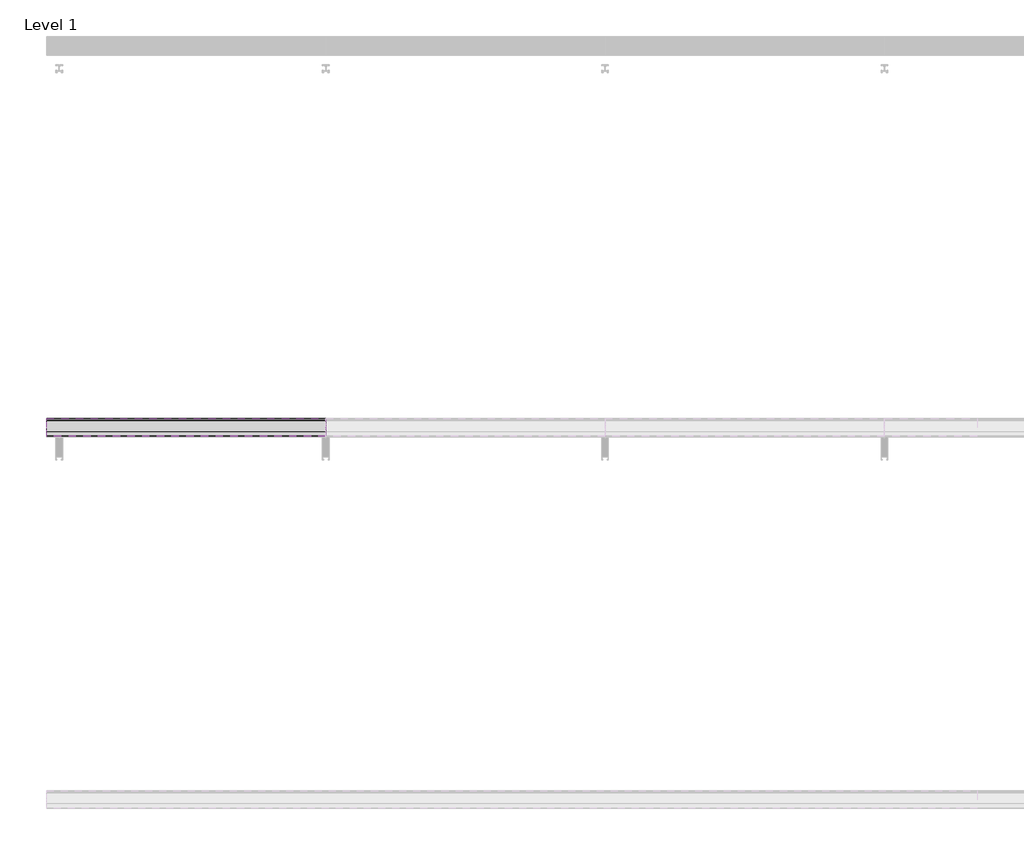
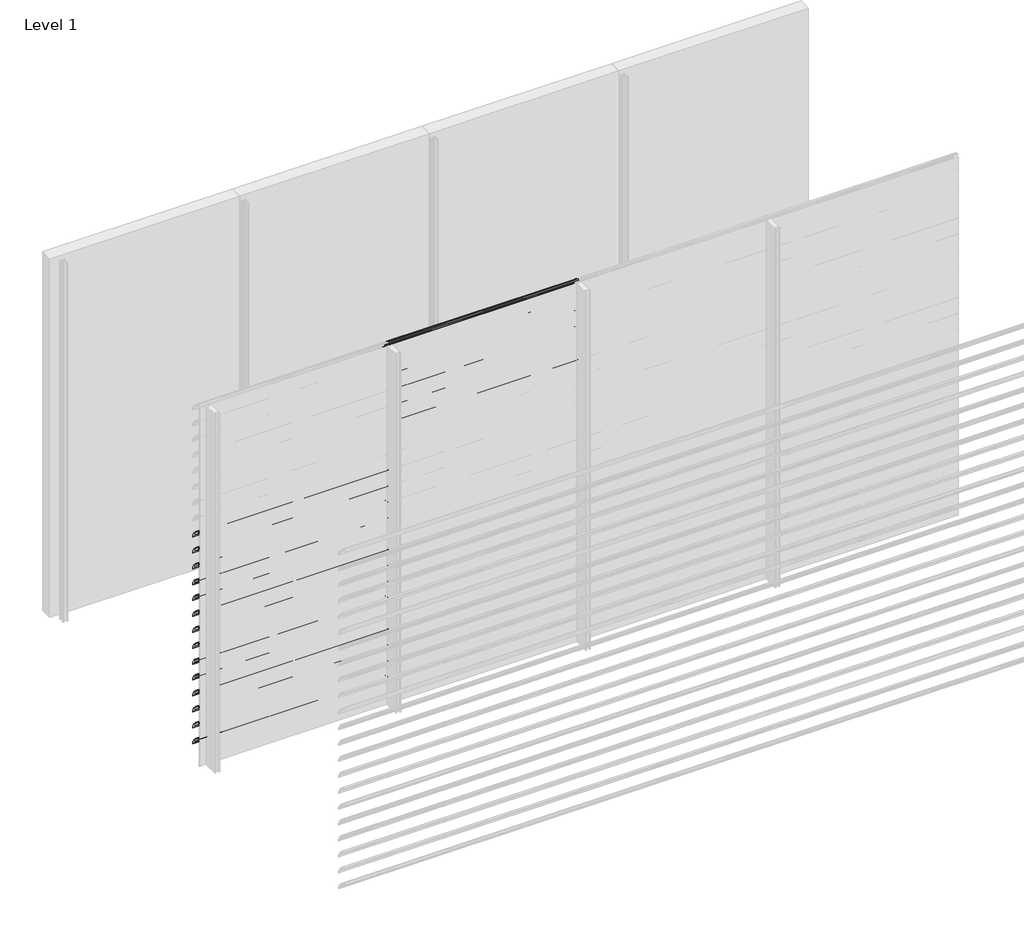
# One storey, part 10 of 57: 20 proxies.
"""IFC4 building model written with IfcOpenShell, lengths in millimetres."""

from ifc_helpers import new_model, si_unit, point, frame, frame_2d, origin, place, context, project, spatial, polyline, circle_curve, trimmed, segment, composite_curve, outline, extrude, element, save

model = new_model("IFC4")

# Units and contexts
model_context = context("Model", 3, world=origin())
ifc_project = project(units=[si_unit("LENGTHUNIT", "METRE", prefix="MILLI")], contexts=[model_context])

# Site, building, storey
site = spatial("IfcSite", under=ifc_project)
building = spatial("IfcBuilding", under=site)
storey = spatial("IfcBuildingStorey", under=building, Name="Level 1", Elevation=0.0)

# Proxies
placement = place(None, origin())
element("IfcBuildingElementProxy", 1, Name="Wall Sweeps", at=placement, inside=storey, context=model_context, shape_type="SweptSolid", body=[
    extrude(outline(composite_curve([segment(trimmed(circle_curve(frame_2d((-47993.7822526, 1952.4913792)), 4.2177474), [point((-47989.6985606, 1953.5462976))], [point((-47993.7822526, 1956.7091266))], False, "CARTESIAN"), True, "CONTINUOUS"), segment(trimmed(circle_curve(frame_2d((-48018.7150834, 1854.2536312)), 105.4456002), [point((-47993.7822526, 1956.7091266))], [point((-47971.7914298, 1948.6832099))], False, "CARTESIAN"), True, "CONTINUOUS"), segment(trimmed(circle_curve(frame_2d((-48061.7199745, 1800.0352476)), 173.7335887), [point((-47971.7914298, 1948.6832099))], [point((-47913.0720121, 1889.9637922))], False, "CARTESIAN"), True, "CONTINUOUS"), segment(trimmed(circle_curve(frame_2d((-48004.9297178, 1838.1860314)), 105.4456002), [point((-47913.0720121, 1889.9637922))], [point((-47903.6249616, 1867.4455765))], False, "CARTESIAN"), True, "CONTINUOUS"), segment(trimmed(circle_curve(frame_2d((-47907.809737, 1866.3307305)), 4.3307305), [point((-47903.6249616, 1867.4455765))], [point((-47909.0769196, 1862.189538))], False, "CARTESIAN"), True, "CONTINUOUS"), segment(polyline([(-47909.0769196, 1862.189538), (-47934.7401984, 1886.9722783)]), True, "CONTINUOUS"), segment(trimmed(circle_curve(frame_2d((-47931.3879574, 1889.2977626)), 4.079877), [point((-47934.7401984, 1886.9722783))], [point((-47930.7310597, 1893.3244091))], False, "CARTESIAN"), True, "CONTINUOUS"), segment(trimmed(circle_curve(frame_2d((-48014.6665585, 1871.2544323)), 86.7885467), [point((-47930.7310597, 1893.3244091))], [point((-47942.3028351, 1919.1683485))], True, "CARTESIAN"), True, "CONTINUOUS"), segment(polyline([(-47942.3028351, 1919.1683485), (-47940.7230099, 1921.9046861)]), True, "CONTINUOUS"), segment(trimmed(circle_curve(frame_2d((-48061.7199745, 1800.0352476)), 171.7335887), [point((-47940.7230099, 1921.9046861))], [point((-47972.7555872, 1946.9289618))], True, "CARTESIAN"), True, "CONTINUOUS"), segment(trimmed(circle_curve(frame_2d((-48018.7150834, 1854.2536312)), 103.4456002), [point((-47972.7555872, 1946.9289618))], [point((-47989.6985606, 1953.5462976))], True, "CARTESIAN"), True, "CONTINUOUS")], self_intersect=False)), frame((0.0, 0.0, 0.0), z_axis=(1.0, 0.0, 0.0), x_axis=(0.0, 1.0, 0.0)), (0.0, 0.0, 1.0), 1500.0),
])
element("IfcBuildingElementProxy", 2, Name="Wall Sweeps", at=placement, inside=storey, context=model_context, shape_type="SweptSolid", body=[
    extrude(outline(composite_curve([segment(trimmed(circle_curve(frame_2d((-47993.7822526, 1819.4913792)), 4.2177474), [point((-47989.6985606, 1820.5462976))], [point((-47993.7822526, 1823.7091266))], False, "CARTESIAN"), True, "CONTINUOUS"), segment(trimmed(circle_curve(frame_2d((-48018.7150834, 1721.2536312)), 105.4456002), [point((-47993.7822526, 1823.7091266))], [point((-47971.7914298, 1815.6832099))], False, "CARTESIAN"), True, "CONTINUOUS"), segment(trimmed(circle_curve(frame_2d((-48061.7199745, 1667.0352476)), 173.7335887), [point((-47971.7914298, 1815.6832099))], [point((-47913.0720121, 1756.9637922))], False, "CARTESIAN"), True, "CONTINUOUS"), segment(trimmed(circle_curve(frame_2d((-48004.9297178, 1705.1860314)), 105.4456002), [point((-47913.0720121, 1756.9637922))], [point((-47903.6249616, 1734.4455765))], False, "CARTESIAN"), True, "CONTINUOUS"), segment(trimmed(circle_curve(frame_2d((-47907.809737, 1733.3307305)), 4.3307305), [point((-47903.6249616, 1734.4455765))], [point((-47909.0769196, 1729.189538))], False, "CARTESIAN"), True, "CONTINUOUS"), segment(polyline([(-47909.0769196, 1729.189538), (-47934.7401984, 1753.9722783)]), True, "CONTINUOUS"), segment(trimmed(circle_curve(frame_2d((-47931.3879574, 1756.2977626)), 4.079877), [point((-47934.7401984, 1753.9722783))], [point((-47930.7310597, 1760.3244091))], False, "CARTESIAN"), True, "CONTINUOUS"), segment(trimmed(circle_curve(frame_2d((-48014.6665585, 1738.2544323)), 86.7885467), [point((-47930.7310597, 1760.3244091))], [point((-47942.3028351, 1786.1683485))], True, "CARTESIAN"), True, "CONTINUOUS"), segment(polyline([(-47942.3028351, 1786.1683485), (-47940.7230099, 1788.9046861)]), True, "CONTINUOUS"), segment(trimmed(circle_curve(frame_2d((-48061.7199745, 1667.0352476)), 171.7335887), [point((-47940.7230099, 1788.9046861))], [point((-47972.7555872, 1813.9289618))], True, "CARTESIAN"), True, "CONTINUOUS"), segment(trimmed(circle_curve(frame_2d((-48018.7150834, 1721.2536312)), 103.4456002), [point((-47972.7555872, 1813.9289618))], [point((-47989.6985606, 1820.5462976))], True, "CARTESIAN"), True, "CONTINUOUS")], self_intersect=False)), frame((0.0, 0.0, 0.0), z_axis=(1.0, 0.0, 0.0), x_axis=(0.0, 1.0, 0.0)), (0.0, 0.0, 1.0), 1500.0),
])
element("IfcBuildingElementProxy", 3, Name="Wall Sweeps", at=placement, inside=storey, context=model_context, shape_type="SweptSolid", body=[
    extrude(outline(composite_curve([segment(trimmed(circle_curve(frame_2d((-47993.7822526, 1686.4913792)), 4.2177474), [point((-47989.6985606, 1687.5462976))], [point((-47993.7822526, 1690.7091266))], False, "CARTESIAN"), True, "CONTINUOUS"), segment(trimmed(circle_curve(frame_2d((-48018.7150834, 1588.2536312)), 105.4456002), [point((-47993.7822526, 1690.7091266))], [point((-47971.7914298, 1682.6832099))], False, "CARTESIAN"), True, "CONTINUOUS"), segment(trimmed(circle_curve(frame_2d((-48061.7199745, 1534.0352476)), 173.7335887), [point((-47971.7914298, 1682.6832099))], [point((-47913.0720121, 1623.9637922))], False, "CARTESIAN"), True, "CONTINUOUS"), segment(trimmed(circle_curve(frame_2d((-48004.9297178, 1572.1860314)), 105.4456002), [point((-47913.0720121, 1623.9637922))], [point((-47903.6249616, 1601.4455765))], False, "CARTESIAN"), True, "CONTINUOUS"), segment(trimmed(circle_curve(frame_2d((-47907.809737, 1600.3307305)), 4.3307305), [point((-47903.6249616, 1601.4455765))], [point((-47909.0769196, 1596.189538))], False, "CARTESIAN"), True, "CONTINUOUS"), segment(polyline([(-47909.0769196, 1596.189538), (-47934.7401984, 1620.9722783)]), True, "CONTINUOUS"), segment(trimmed(circle_curve(frame_2d((-47931.3879574, 1623.2977626)), 4.079877), [point((-47934.7401984, 1620.9722783))], [point((-47930.7310597, 1627.3244091))], False, "CARTESIAN"), True, "CONTINUOUS"), segment(trimmed(circle_curve(frame_2d((-48014.6665585, 1605.2544323)), 86.7885467), [point((-47930.7310597, 1627.3244091))], [point((-47942.3028351, 1653.1683485))], True, "CARTESIAN"), True, "CONTINUOUS"), segment(polyline([(-47942.3028351, 1653.1683485), (-47940.7230099, 1655.9046861)]), True, "CONTINUOUS"), segment(trimmed(circle_curve(frame_2d((-48061.7199745, 1534.0352476)), 171.7335887), [point((-47940.7230099, 1655.9046861))], [point((-47972.7555872, 1680.9289618))], True, "CARTESIAN"), True, "CONTINUOUS"), segment(trimmed(circle_curve(frame_2d((-48018.7150834, 1588.2536312)), 103.4456002), [point((-47972.7555872, 1680.9289618))], [point((-47989.6985606, 1687.5462976))], True, "CARTESIAN"), True, "CONTINUOUS")], self_intersect=False)), frame((0.0, 0.0, 0.0), z_axis=(1.0, 0.0, 0.0), x_axis=(0.0, 1.0, 0.0)), (0.0, 0.0, 1.0), 1500.0),
])
element("IfcBuildingElementProxy", 4, Name="Wall Sweeps", at=placement, inside=storey, context=model_context, shape_type="SweptSolid", body=[
    extrude(outline(composite_curve([segment(trimmed(circle_curve(frame_2d((-47993.7822526, 1553.4913792)), 4.2177474), [point((-47989.6985606, 1554.5462976))], [point((-47993.7822526, 1557.7091266))], False, "CARTESIAN"), True, "CONTINUOUS"), segment(trimmed(circle_curve(frame_2d((-48018.7150834, 1455.2536312)), 105.4456002), [point((-47993.7822526, 1557.7091266))], [point((-47971.7914298, 1549.6832099))], False, "CARTESIAN"), True, "CONTINUOUS"), segment(trimmed(circle_curve(frame_2d((-48061.7199745, 1401.0352476)), 173.7335887), [point((-47971.7914298, 1549.6832099))], [point((-47913.0720121, 1490.9637922))], False, "CARTESIAN"), True, "CONTINUOUS"), segment(trimmed(circle_curve(frame_2d((-48004.9297178, 1439.1860314)), 105.4456002), [point((-47913.0720121, 1490.9637922))], [point((-47903.6249616, 1468.4455765))], False, "CARTESIAN"), True, "CONTINUOUS"), segment(trimmed(circle_curve(frame_2d((-47907.809737, 1467.3307305)), 4.3307305), [point((-47903.6249616, 1468.4455765))], [point((-47909.0769196, 1463.189538))], False, "CARTESIAN"), True, "CONTINUOUS"), segment(polyline([(-47909.0769196, 1463.189538), (-47934.7401984, 1487.9722783)]), True, "CONTINUOUS"), segment(trimmed(circle_curve(frame_2d((-47931.3879574, 1490.2977626)), 4.079877), [point((-47934.7401984, 1487.9722783))], [point((-47930.7310597, 1494.3244091))], False, "CARTESIAN"), True, "CONTINUOUS"), segment(trimmed(circle_curve(frame_2d((-48014.6665585, 1472.2544323)), 86.7885467), [point((-47930.7310597, 1494.3244091))], [point((-47942.3028351, 1520.1683485))], True, "CARTESIAN"), True, "CONTINUOUS"), segment(polyline([(-47942.3028351, 1520.1683485), (-47940.7230099, 1522.9046861)]), True, "CONTINUOUS"), segment(trimmed(circle_curve(frame_2d((-48061.7199745, 1401.0352476)), 171.7335887), [point((-47940.7230099, 1522.9046861))], [point((-47972.7555872, 1547.9289618))], True, "CARTESIAN"), True, "CONTINUOUS"), segment(trimmed(circle_curve(frame_2d((-48018.7150834, 1455.2536312)), 103.4456002), [point((-47972.7555872, 1547.9289618))], [point((-47989.6985606, 1554.5462976))], True, "CARTESIAN"), True, "CONTINUOUS")], self_intersect=False)), frame((0.0, 0.0, 0.0), z_axis=(1.0, 0.0, 0.0), x_axis=(0.0, 1.0, 0.0)), (0.0, 0.0, 1.0), 1500.0),
])
element("IfcBuildingElementProxy", 5, Name="Wall Sweeps", at=placement, inside=storey, context=model_context, shape_type="SweptSolid", body=[
    extrude(outline(composite_curve([segment(trimmed(circle_curve(frame_2d((-47993.7822526, 1420.4913792)), 4.2177474), [point((-47989.6985606, 1421.5462976))], [point((-47993.7822526, 1424.7091266))], False, "CARTESIAN"), True, "CONTINUOUS"), segment(trimmed(circle_curve(frame_2d((-48018.7150834, 1322.2536312)), 105.4456002), [point((-47993.7822526, 1424.7091266))], [point((-47971.7914298, 1416.6832099))], False, "CARTESIAN"), True, "CONTINUOUS"), segment(trimmed(circle_curve(frame_2d((-48061.7199745, 1268.0352476)), 173.7335887), [point((-47971.7914298, 1416.6832099))], [point((-47913.0720121, 1357.9637922))], False, "CARTESIAN"), True, "CONTINUOUS"), segment(trimmed(circle_curve(frame_2d((-48004.9297178, 1306.1860314)), 105.4456002), [point((-47913.0720121, 1357.9637922))], [point((-47903.6249616, 1335.4455765))], False, "CARTESIAN"), True, "CONTINUOUS"), segment(trimmed(circle_curve(frame_2d((-47907.809737, 1334.3307305)), 4.3307305), [point((-47903.6249616, 1335.4455765))], [point((-47909.0769196, 1330.189538))], False, "CARTESIAN"), True, "CONTINUOUS"), segment(polyline([(-47909.0769196, 1330.189538), (-47934.7401984, 1354.9722783)]), True, "CONTINUOUS"), segment(trimmed(circle_curve(frame_2d((-47931.3879574, 1357.2977626)), 4.079877), [point((-47934.7401984, 1354.9722783))], [point((-47930.7310597, 1361.3244091))], False, "CARTESIAN"), True, "CONTINUOUS"), segment(trimmed(circle_curve(frame_2d((-48014.6665585, 1339.2544323)), 86.7885467), [point((-47930.7310597, 1361.3244091))], [point((-47942.3028351, 1387.1683485))], True, "CARTESIAN"), True, "CONTINUOUS"), segment(polyline([(-47942.3028351, 1387.1683485), (-47940.7230099, 1389.9046861)]), True, "CONTINUOUS"), segment(trimmed(circle_curve(frame_2d((-48061.7199745, 1268.0352476)), 171.7335887), [point((-47940.7230099, 1389.9046861))], [point((-47972.7555872, 1414.9289618))], True, "CARTESIAN"), True, "CONTINUOUS"), segment(trimmed(circle_curve(frame_2d((-48018.7150834, 1322.2536312)), 103.4456002), [point((-47972.7555872, 1414.9289618))], [point((-47989.6985606, 1421.5462976))], True, "CARTESIAN"), True, "CONTINUOUS")], self_intersect=False)), frame((0.0, 0.0, 0.0), z_axis=(1.0, 0.0, 0.0), x_axis=(0.0, 1.0, 0.0)), (0.0, 0.0, 1.0), 1500.0),
])
element("IfcBuildingElementProxy", 6, Name="Wall Sweeps", at=placement, inside=storey, context=model_context, shape_type="SweptSolid", body=[
    extrude(outline(composite_curve([segment(trimmed(circle_curve(frame_2d((-47993.7822526, 1287.4913792)), 4.2177474), [point((-47989.6985606, 1288.5462976))], [point((-47993.7822526, 1291.7091266))], False, "CARTESIAN"), True, "CONTINUOUS"), segment(trimmed(circle_curve(frame_2d((-48018.7150834, 1189.2536312)), 105.4456002), [point((-47993.7822526, 1291.7091266))], [point((-47971.7914298, 1283.6832099))], False, "CARTESIAN"), True, "CONTINUOUS"), segment(trimmed(circle_curve(frame_2d((-48061.7199745, 1135.0352476)), 173.7335887), [point((-47971.7914298, 1283.6832099))], [point((-47913.0720121, 1224.9637922))], False, "CARTESIAN"), True, "CONTINUOUS"), segment(trimmed(circle_curve(frame_2d((-48004.9297178, 1173.1860314)), 105.4456002), [point((-47913.0720121, 1224.9637922))], [point((-47903.6249616, 1202.4455765))], False, "CARTESIAN"), True, "CONTINUOUS"), segment(trimmed(circle_curve(frame_2d((-47907.809737, 1201.3307305)), 4.3307305), [point((-47903.6249616, 1202.4455765))], [point((-47909.0769196, 1197.189538))], False, "CARTESIAN"), True, "CONTINUOUS"), segment(polyline([(-47909.0769196, 1197.189538), (-47934.7401984, 1221.9722783)]), True, "CONTINUOUS"), segment(trimmed(circle_curve(frame_2d((-47931.3879574, 1224.2977626)), 4.079877), [point((-47934.7401984, 1221.9722783))], [point((-47930.7310597, 1228.3244091))], False, "CARTESIAN"), True, "CONTINUOUS"), segment(trimmed(circle_curve(frame_2d((-48014.6665585, 1206.2544323)), 86.7885467), [point((-47930.7310597, 1228.3244091))], [point((-47942.3028351, 1254.1683485))], True, "CARTESIAN"), True, "CONTINUOUS"), segment(polyline([(-47942.3028351, 1254.1683485), (-47940.7230099, 1256.9046861)]), True, "CONTINUOUS"), segment(trimmed(circle_curve(frame_2d((-48061.7199745, 1135.0352476)), 171.7335887), [point((-47940.7230099, 1256.9046861))], [point((-47972.7555872, 1281.9289618))], True, "CARTESIAN"), True, "CONTINUOUS"), segment(trimmed(circle_curve(frame_2d((-48018.7150834, 1189.2536312)), 103.4456002), [point((-47972.7555872, 1281.9289618))], [point((-47989.6985606, 1288.5462976))], True, "CARTESIAN"), True, "CONTINUOUS")], self_intersect=False)), frame((0.0, 0.0, 0.0), z_axis=(1.0, 0.0, 0.0), x_axis=(0.0, 1.0, 0.0)), (0.0, 0.0, 1.0), 1500.0),
])
element("IfcBuildingElementProxy", 7, Name="Wall Sweeps", at=placement, inside=storey, context=model_context, shape_type="SweptSolid", body=[
    extrude(outline(composite_curve([segment(trimmed(circle_curve(frame_2d((-47993.7822526, 1154.4913792)), 4.2177474), [point((-47989.6985606, 1155.5462976))], [point((-47993.7822526, 1158.7091266))], False, "CARTESIAN"), True, "CONTINUOUS"), segment(trimmed(circle_curve(frame_2d((-48018.7150834, 1056.2536312)), 105.4456002), [point((-47993.7822526, 1158.7091266))], [point((-47971.7914298, 1150.6832099))], False, "CARTESIAN"), True, "CONTINUOUS"), segment(trimmed(circle_curve(frame_2d((-48061.7199745, 1002.0352476)), 173.7335887), [point((-47971.7914298, 1150.6832099))], [point((-47913.0720121, 1091.9637922))], False, "CARTESIAN"), True, "CONTINUOUS"), segment(trimmed(circle_curve(frame_2d((-48004.9297178, 1040.1860314)), 105.4456002), [point((-47913.0720121, 1091.9637922))], [point((-47903.6249616, 1069.4455765))], False, "CARTESIAN"), True, "CONTINUOUS"), segment(trimmed(circle_curve(frame_2d((-47907.809737, 1068.3307305)), 4.3307305), [point((-47903.6249616, 1069.4455765))], [point((-47909.0769196, 1064.189538))], False, "CARTESIAN"), True, "CONTINUOUS"), segment(polyline([(-47909.0769196, 1064.189538), (-47934.7401984, 1088.9722783)]), True, "CONTINUOUS"), segment(trimmed(circle_curve(frame_2d((-47931.3879574, 1091.2977626)), 4.079877), [point((-47934.7401984, 1088.9722783))], [point((-47930.7310597, 1095.3244091))], False, "CARTESIAN"), True, "CONTINUOUS"), segment(trimmed(circle_curve(frame_2d((-48014.6665585, 1073.2544323)), 86.7885467), [point((-47930.7310597, 1095.3244091))], [point((-47942.3028351, 1121.1683485))], True, "CARTESIAN"), True, "CONTINUOUS"), segment(polyline([(-47942.3028351, 1121.1683485), (-47940.7230099, 1123.9046861)]), True, "CONTINUOUS"), segment(trimmed(circle_curve(frame_2d((-48061.7199745, 1002.0352476)), 171.7335887), [point((-47940.7230099, 1123.9046861))], [point((-47972.7555872, 1148.9289618))], True, "CARTESIAN"), True, "CONTINUOUS"), segment(trimmed(circle_curve(frame_2d((-48018.7150834, 1056.2536312)), 103.4456002), [point((-47972.7555872, 1148.9289618))], [point((-47989.6985606, 1155.5462976))], True, "CARTESIAN"), True, "CONTINUOUS")], self_intersect=False)), frame((0.0, 0.0, 0.0), z_axis=(1.0, 0.0, 0.0), x_axis=(0.0, 1.0, 0.0)), (0.0, 0.0, 1.0), 1500.0),
])
element("IfcBuildingElementProxy", 8, Name="Wall Sweeps", at=placement, inside=storey, context=model_context, shape_type="SweptSolid", body=[
    extrude(outline(composite_curve([segment(trimmed(circle_curve(frame_2d((-47993.7822526, 1021.4913792)), 4.2177474), [point((-47989.6985606, 1022.5462976))], [point((-47993.7822526, 1025.7091266))], False, "CARTESIAN"), True, "CONTINUOUS"), segment(trimmed(circle_curve(frame_2d((-48018.7150834, 923.2536312)), 105.4456002), [point((-47993.7822526, 1025.7091266))], [point((-47971.7914298, 1017.6832099))], False, "CARTESIAN"), True, "CONTINUOUS"), segment(trimmed(circle_curve(frame_2d((-48061.7199745, 869.0352476)), 173.7335887), [point((-47971.7914298, 1017.6832099))], [point((-47913.0720121, 958.9637922))], False, "CARTESIAN"), True, "CONTINUOUS"), segment(trimmed(circle_curve(frame_2d((-48004.9297178, 907.1860314)), 105.4456002), [point((-47913.0720121, 958.9637922))], [point((-47903.6249616, 936.4455765))], False, "CARTESIAN"), True, "CONTINUOUS"), segment(trimmed(circle_curve(frame_2d((-47907.809737, 935.3307305)), 4.3307305), [point((-47903.6249616, 936.4455765))], [point((-47909.0769196, 931.189538))], False, "CARTESIAN"), True, "CONTINUOUS"), segment(polyline([(-47909.0769196, 931.189538), (-47934.7401984, 955.9722783)]), True, "CONTINUOUS"), segment(trimmed(circle_curve(frame_2d((-47931.3879574, 958.2977626)), 4.079877), [point((-47934.7401984, 955.9722783))], [point((-47930.7310597, 962.3244091))], False, "CARTESIAN"), True, "CONTINUOUS"), segment(trimmed(circle_curve(frame_2d((-48014.6665585, 940.2544323)), 86.7885467), [point((-47930.7310597, 962.3244091))], [point((-47942.3028351, 988.1683485))], True, "CARTESIAN"), True, "CONTINUOUS"), segment(polyline([(-47942.3028351, 988.1683485), (-47940.7230099, 990.9046861)]), True, "CONTINUOUS"), segment(trimmed(circle_curve(frame_2d((-48061.7199745, 869.0352476)), 171.7335887), [point((-47940.7230099, 990.9046861))], [point((-47972.7555872, 1015.9289618))], True, "CARTESIAN"), True, "CONTINUOUS"), segment(trimmed(circle_curve(frame_2d((-48018.7150834, 923.2536312)), 103.4456002), [point((-47972.7555872, 1015.9289618))], [point((-47989.6985606, 1022.5462976))], True, "CARTESIAN"), True, "CONTINUOUS")], self_intersect=False)), frame((0.0, 0.0, 0.0), z_axis=(1.0, 0.0, 0.0), x_axis=(0.0, 1.0, 0.0)), (0.0, 0.0, 1.0), 1500.0),
])
element("IfcBuildingElementProxy", 9, Name="Wall Sweeps", at=placement, inside=storey, context=model_context, shape_type="SweptSolid", body=[
    extrude(outline(composite_curve([segment(trimmed(circle_curve(frame_2d((-47993.7822526, 888.4913792)), 4.2177474), [point((-47989.6985606, 889.5462976))], [point((-47993.7822526, 892.7091266))], False, "CARTESIAN"), True, "CONTINUOUS"), segment(trimmed(circle_curve(frame_2d((-48018.7150834, 790.2536312)), 105.4456002), [point((-47993.7822526, 892.7091266))], [point((-47971.7914298, 884.6832099))], False, "CARTESIAN"), True, "CONTINUOUS"), segment(trimmed(circle_curve(frame_2d((-48061.7199745, 736.0352476)), 173.7335887), [point((-47971.7914298, 884.6832099))], [point((-47913.0720121, 825.9637922))], False, "CARTESIAN"), True, "CONTINUOUS"), segment(trimmed(circle_curve(frame_2d((-48004.9297178, 774.1860314)), 105.4456002), [point((-47913.0720121, 825.9637922))], [point((-47903.6249616, 803.4455765))], False, "CARTESIAN"), True, "CONTINUOUS"), segment(trimmed(circle_curve(frame_2d((-47907.809737, 802.3307305)), 4.3307305), [point((-47903.6249616, 803.4455765))], [point((-47909.0769196, 798.189538))], False, "CARTESIAN"), True, "CONTINUOUS"), segment(polyline([(-47909.0769196, 798.189538), (-47934.7401984, 822.9722783)]), True, "CONTINUOUS"), segment(trimmed(circle_curve(frame_2d((-47931.3879574, 825.2977626)), 4.079877), [point((-47934.7401984, 822.9722783))], [point((-47930.7310597, 829.3244091))], False, "CARTESIAN"), True, "CONTINUOUS"), segment(trimmed(circle_curve(frame_2d((-48014.6665585, 807.2544323)), 86.7885467), [point((-47930.7310597, 829.3244091))], [point((-47942.3028351, 855.1683485))], True, "CARTESIAN"), True, "CONTINUOUS"), segment(polyline([(-47942.3028351, 855.1683485), (-47940.7230099, 857.9046861)]), True, "CONTINUOUS"), segment(trimmed(circle_curve(frame_2d((-48061.7199745, 736.0352476)), 171.7335887), [point((-47940.7230099, 857.9046861))], [point((-47972.7555872, 882.9289618))], True, "CARTESIAN"), True, "CONTINUOUS"), segment(trimmed(circle_curve(frame_2d((-48018.7150834, 790.2536312)), 103.4456002), [point((-47972.7555872, 882.9289618))], [point((-47989.6985606, 889.5462976))], True, "CARTESIAN"), True, "CONTINUOUS")], self_intersect=False)), frame((0.0, 0.0, 0.0), z_axis=(1.0, 0.0, 0.0), x_axis=(0.0, 1.0, 0.0)), (0.0, 0.0, 1.0), 1500.0),
])
element("IfcBuildingElementProxy", 10, Name="Wall Sweeps", at=placement, inside=storey, context=model_context, shape_type="SweptSolid", body=[
    extrude(outline(composite_curve([segment(trimmed(circle_curve(frame_2d((-47993.7822526, 755.4913792)), 4.2177474), [point((-47989.6985606, 756.5462976))], [point((-47993.7822526, 759.7091266))], False, "CARTESIAN"), True, "CONTINUOUS"), segment(trimmed(circle_curve(frame_2d((-48018.7150834, 657.2536312)), 105.4456002), [point((-47993.7822526, 759.7091266))], [point((-47971.7914298, 751.6832099))], False, "CARTESIAN"), True, "CONTINUOUS"), segment(trimmed(circle_curve(frame_2d((-48061.7199745, 603.0352476)), 173.7335887), [point((-47971.7914298, 751.6832099))], [point((-47913.0720121, 692.9637922))], False, "CARTESIAN"), True, "CONTINUOUS"), segment(trimmed(circle_curve(frame_2d((-48004.9297178, 641.1860314)), 105.4456002), [point((-47913.0720121, 692.9637922))], [point((-47903.6249616, 670.4455765))], False, "CARTESIAN"), True, "CONTINUOUS"), segment(trimmed(circle_curve(frame_2d((-47907.809737, 669.3307305)), 4.3307305), [point((-47903.6249616, 670.4455765))], [point((-47909.0769196, 665.189538))], False, "CARTESIAN"), True, "CONTINUOUS"), segment(polyline([(-47909.0769196, 665.189538), (-47934.7401984, 689.9722783)]), True, "CONTINUOUS"), segment(trimmed(circle_curve(frame_2d((-47931.3879574, 692.2977626)), 4.079877), [point((-47934.7401984, 689.9722783))], [point((-47930.7310597, 696.3244091))], False, "CARTESIAN"), True, "CONTINUOUS"), segment(trimmed(circle_curve(frame_2d((-48014.6665585, 674.2544323)), 86.7885467), [point((-47930.7310597, 696.3244091))], [point((-47942.3028351, 722.1683485))], True, "CARTESIAN"), True, "CONTINUOUS"), segment(polyline([(-47942.3028351, 722.1683485), (-47940.7230099, 724.9046861)]), True, "CONTINUOUS"), segment(trimmed(circle_curve(frame_2d((-48061.7199745, 603.0352476)), 171.7335887), [point((-47940.7230099, 724.9046861))], [point((-47972.7555872, 749.9289618))], True, "CARTESIAN"), True, "CONTINUOUS"), segment(trimmed(circle_curve(frame_2d((-48018.7150834, 657.2536312)), 103.4456002), [point((-47972.7555872, 749.9289618))], [point((-47989.6985606, 756.5462976))], True, "CARTESIAN"), True, "CONTINUOUS")], self_intersect=False)), frame((0.0, 0.0, 0.0), z_axis=(1.0, 0.0, 0.0), x_axis=(0.0, 1.0, 0.0)), (0.0, 0.0, 1.0), 1500.0),
])
element("IfcBuildingElementProxy", 11, Name="Wall Sweeps", at=placement, inside=storey, context=model_context, shape_type="SweptSolid", body=[
    extrude(outline(composite_curve([segment(trimmed(circle_curve(frame_2d((-47993.7822526, 622.4913792)), 4.2177474), [point((-47989.6985606, 623.5462976))], [point((-47993.7822526, 626.7091266))], False, "CARTESIAN"), True, "CONTINUOUS"), segment(trimmed(circle_curve(frame_2d((-48018.7150834, 524.2536312)), 105.4456002), [point((-47993.7822526, 626.7091266))], [point((-47971.7914298, 618.6832099))], False, "CARTESIAN"), True, "CONTINUOUS"), segment(trimmed(circle_curve(frame_2d((-48061.7199745, 470.0352476)), 173.7335887), [point((-47971.7914298, 618.6832099))], [point((-47913.0720121, 559.9637922))], False, "CARTESIAN"), True, "CONTINUOUS"), segment(trimmed(circle_curve(frame_2d((-48004.9297178, 508.1860314)), 105.4456002), [point((-47913.0720121, 559.9637922))], [point((-47903.6249616, 537.4455765))], False, "CARTESIAN"), True, "CONTINUOUS"), segment(trimmed(circle_curve(frame_2d((-47907.809737, 536.3307305)), 4.3307305), [point((-47903.6249616, 537.4455765))], [point((-47909.0769196, 532.189538))], False, "CARTESIAN"), True, "CONTINUOUS"), segment(polyline([(-47909.0769196, 532.189538), (-47934.7401984, 556.9722783)]), True, "CONTINUOUS"), segment(trimmed(circle_curve(frame_2d((-47931.3879574, 559.2977626)), 4.079877), [point((-47934.7401984, 556.9722783))], [point((-47930.7310597, 563.3244091))], False, "CARTESIAN"), True, "CONTINUOUS"), segment(trimmed(circle_curve(frame_2d((-48014.6665585, 541.2544323)), 86.7885467), [point((-47930.7310597, 563.3244091))], [point((-47942.3028351, 589.1683485))], True, "CARTESIAN"), True, "CONTINUOUS"), segment(polyline([(-47942.3028351, 589.1683485), (-47940.7230099, 591.9046861)]), True, "CONTINUOUS"), segment(trimmed(circle_curve(frame_2d((-48061.7199745, 470.0352476)), 171.7335887), [point((-47940.7230099, 591.9046861))], [point((-47972.7555872, 616.9289618))], True, "CARTESIAN"), True, "CONTINUOUS"), segment(trimmed(circle_curve(frame_2d((-48018.7150834, 524.2536312)), 103.4456002), [point((-47972.7555872, 616.9289618))], [point((-47989.6985606, 623.5462976))], True, "CARTESIAN"), True, "CONTINUOUS")], self_intersect=False)), frame((0.0, 0.0, 0.0), z_axis=(1.0, 0.0, 0.0), x_axis=(0.0, 1.0, 0.0)), (0.0, 0.0, 1.0), 1500.0),
])
element("IfcBuildingElementProxy", 12, Name="Wall Sweeps", at=placement, inside=storey, context=model_context, shape_type="SweptSolid", body=[
    extrude(outline(composite_curve([segment(trimmed(circle_curve(frame_2d((-47993.7822526, 489.4913792)), 4.2177474), [point((-47989.6985606, 490.5462976))], [point((-47993.7822526, 493.7091266))], False, "CARTESIAN"), True, "CONTINUOUS"), segment(trimmed(circle_curve(frame_2d((-48018.7150834, 391.2536312)), 105.4456002), [point((-47993.7822526, 493.7091266))], [point((-47971.7914298, 485.6832099))], False, "CARTESIAN"), True, "CONTINUOUS"), segment(trimmed(circle_curve(frame_2d((-48061.7199745, 337.0352476)), 173.7335887), [point((-47971.7914298, 485.6832099))], [point((-47913.0720121, 426.9637922))], False, "CARTESIAN"), True, "CONTINUOUS"), segment(trimmed(circle_curve(frame_2d((-48004.9297178, 375.1860314)), 105.4456002), [point((-47913.0720121, 426.9637922))], [point((-47903.6249616, 404.4455765))], False, "CARTESIAN"), True, "CONTINUOUS"), segment(trimmed(circle_curve(frame_2d((-47907.809737, 403.3307305)), 4.3307305), [point((-47903.6249616, 404.4455765))], [point((-47909.0769196, 399.189538))], False, "CARTESIAN"), True, "CONTINUOUS"), segment(polyline([(-47909.0769196, 399.189538), (-47934.7401984, 423.9722783)]), True, "CONTINUOUS"), segment(trimmed(circle_curve(frame_2d((-47931.3879574, 426.2977626)), 4.079877), [point((-47934.7401984, 423.9722783))], [point((-47930.7310597, 430.3244091))], False, "CARTESIAN"), True, "CONTINUOUS"), segment(trimmed(circle_curve(frame_2d((-48014.6665585, 408.2544323)), 86.7885467), [point((-47930.7310597, 430.3244091))], [point((-47942.3028351, 456.1683485))], True, "CARTESIAN"), True, "CONTINUOUS"), segment(polyline([(-47942.3028351, 456.1683485), (-47940.7230099, 458.9046861)]), True, "CONTINUOUS"), segment(trimmed(circle_curve(frame_2d((-48061.7199745, 337.0352476)), 171.7335887), [point((-47940.7230099, 458.9046861))], [point((-47972.7555872, 483.9289618))], True, "CARTESIAN"), True, "CONTINUOUS"), segment(trimmed(circle_curve(frame_2d((-48018.7150834, 391.2536312)), 103.4456002), [point((-47972.7555872, 483.9289618))], [point((-47989.6985606, 490.5462976))], True, "CARTESIAN"), True, "CONTINUOUS")], self_intersect=False)), frame((0.0, 0.0, 0.0), z_axis=(1.0, 0.0, 0.0), x_axis=(0.0, 1.0, 0.0)), (0.0, 0.0, 1.0), 1500.0),
])
element("IfcBuildingElementProxy", 13, Name="Wall Sweeps", at=placement, inside=storey, context=model_context, shape_type="SweptSolid", body=[
    extrude(outline(composite_curve([segment(trimmed(circle_curve(frame_2d((-47993.7822526, 356.4913792)), 4.2177474), [point((-47989.6985606, 357.5462976))], [point((-47993.7822526, 360.7091266))], False, "CARTESIAN"), True, "CONTINUOUS"), segment(trimmed(circle_curve(frame_2d((-48018.7150834, 258.2536312)), 105.4456002), [point((-47993.7822526, 360.7091266))], [point((-47971.7914298, 352.6832099))], False, "CARTESIAN"), True, "CONTINUOUS"), segment(trimmed(circle_curve(frame_2d((-48061.7199745, 204.0352476)), 173.7335887), [point((-47971.7914298, 352.6832099))], [point((-47913.0720121, 293.9637922))], False, "CARTESIAN"), True, "CONTINUOUS"), segment(trimmed(circle_curve(frame_2d((-48004.9297178, 242.1860314)), 105.4456002), [point((-47913.0720121, 293.9637922))], [point((-47903.6249616, 271.4455765))], False, "CARTESIAN"), True, "CONTINUOUS"), segment(trimmed(circle_curve(frame_2d((-47907.809737, 270.3307305)), 4.3307305), [point((-47903.6249616, 271.4455765))], [point((-47909.0769196, 266.189538))], False, "CARTESIAN"), True, "CONTINUOUS"), segment(polyline([(-47909.0769196, 266.189538), (-47934.7401984, 290.9722783)]), True, "CONTINUOUS"), segment(trimmed(circle_curve(frame_2d((-47931.3879574, 293.2977626)), 4.079877), [point((-47934.7401984, 290.9722783))], [point((-47930.7310597, 297.3244091))], False, "CARTESIAN"), True, "CONTINUOUS"), segment(trimmed(circle_curve(frame_2d((-48014.6665585, 275.2544323)), 86.7885467), [point((-47930.7310597, 297.3244091))], [point((-47942.3028351, 323.1683485))], True, "CARTESIAN"), True, "CONTINUOUS"), segment(polyline([(-47942.3028351, 323.1683485), (-47940.7230099, 325.9046861)]), True, "CONTINUOUS"), segment(trimmed(circle_curve(frame_2d((-48061.7199745, 204.0352476)), 171.7335887), [point((-47940.7230099, 325.9046861))], [point((-47972.7555872, 350.9289618))], True, "CARTESIAN"), True, "CONTINUOUS"), segment(trimmed(circle_curve(frame_2d((-48018.7150834, 258.2536312)), 103.4456002), [point((-47972.7555872, 350.9289618))], [point((-47989.6985606, 357.5462976))], True, "CARTESIAN"), True, "CONTINUOUS")], self_intersect=False)), frame((0.0, 0.0, 0.0), z_axis=(1.0, 0.0, 0.0), x_axis=(0.0, 1.0, 0.0)), (0.0, 0.0, 1.0), 1500.0),
])
element("IfcBuildingElementProxy", 14, Name="Wall Sweeps", at=placement, inside=storey, context=model_context, shape_type="SweptSolid", body=[
    extrude(outline(composite_curve([segment(trimmed(circle_curve(frame_2d((-47993.7822526, 223.4913792)), 4.2177474), [point((-47989.6985606, 224.5462976))], [point((-47993.7822526, 227.7091266))], False, "CARTESIAN"), True, "CONTINUOUS"), segment(trimmed(circle_curve(frame_2d((-48018.7150834, 125.2536312)), 105.4456002), [point((-47993.7822526, 227.7091266))], [point((-47971.7914298, 219.6832099))], False, "CARTESIAN"), True, "CONTINUOUS"), segment(trimmed(circle_curve(frame_2d((-48061.7199745, 71.0352476)), 173.7335887), [point((-47971.7914298, 219.6832099))], [point((-47913.0720121, 160.9637922))], False, "CARTESIAN"), True, "CONTINUOUS"), segment(trimmed(circle_curve(frame_2d((-48004.9297178, 109.1860314)), 105.4456002), [point((-47913.0720121, 160.9637922))], [point((-47903.6249616, 138.4455765))], False, "CARTESIAN"), True, "CONTINUOUS"), segment(trimmed(circle_curve(frame_2d((-47907.809737, 137.3307305)), 4.3307305), [point((-47903.6249616, 138.4455765))], [point((-47909.0769196, 133.189538))], False, "CARTESIAN"), True, "CONTINUOUS"), segment(polyline([(-47909.0769196, 133.189538), (-47934.7401984, 157.9722783)]), True, "CONTINUOUS"), segment(trimmed(circle_curve(frame_2d((-47931.3879574, 160.2977626)), 4.079877), [point((-47934.7401984, 157.9722783))], [point((-47930.7310597, 164.3244091))], False, "CARTESIAN"), True, "CONTINUOUS"), segment(trimmed(circle_curve(frame_2d((-48014.6665585, 142.2544323)), 86.7885467), [point((-47930.7310597, 164.3244091))], [point((-47942.3028351, 190.1683485))], True, "CARTESIAN"), True, "CONTINUOUS"), segment(polyline([(-47942.3028351, 190.1683485), (-47940.7230099, 192.9046861)]), True, "CONTINUOUS"), segment(trimmed(circle_curve(frame_2d((-48061.7199745, 71.0352476)), 171.7335887), [point((-47940.7230099, 192.9046861))], [point((-47972.7555872, 217.9289618))], True, "CARTESIAN"), True, "CONTINUOUS"), segment(trimmed(circle_curve(frame_2d((-48018.7150834, 125.2536312)), 103.4456002), [point((-47972.7555872, 217.9289618))], [point((-47989.6985606, 224.5462976))], True, "CARTESIAN"), True, "CONTINUOUS")], self_intersect=False)), frame((0.0, 0.0, 0.0), z_axis=(1.0, 0.0, 0.0), x_axis=(0.0, 1.0, 0.0)), (0.0, 0.0, 1.0), 1500.0),
])
element("IfcBuildingElementProxy", 15, Name="Wall Sweeps", at=placement, inside=storey, context=model_context, shape_type="SweptSolid", body=[
    extrude(outline(composite_curve([segment(trimmed(circle_curve(frame_2d((-47993.7822526, 3016.4913792)), 4.2177474), [point((-47989.6985606, 3017.5462976))], [point((-47993.7822526, 3020.7091266))], False, "CARTESIAN"), True, "CONTINUOUS"), segment(trimmed(circle_curve(frame_2d((-48018.7150834, 2918.2536312)), 105.4456002), [point((-47993.7822526, 3020.7091266))], [point((-47971.7914298, 3012.6832099))], False, "CARTESIAN"), True, "CONTINUOUS"), segment(trimmed(circle_curve(frame_2d((-48061.7199745, 2864.0352476)), 173.7335887), [point((-47971.7914298, 3012.6832099))], [point((-47913.0720121, 2953.9637922))], False, "CARTESIAN"), True, "CONTINUOUS"), segment(trimmed(circle_curve(frame_2d((-48004.9297178, 2902.1860314)), 105.4456002), [point((-47913.0720121, 2953.9637922))], [point((-47903.6249616, 2931.4455765))], False, "CARTESIAN"), True, "CONTINUOUS"), segment(trimmed(circle_curve(frame_2d((-47907.809737, 2930.3307305)), 4.3307305), [point((-47903.6249616, 2931.4455765))], [point((-47909.0769196, 2926.189538))], False, "CARTESIAN"), True, "CONTINUOUS"), segment(polyline([(-47909.0769196, 2926.189538), (-47934.7401984, 2950.9722783)]), True, "CONTINUOUS"), segment(trimmed(circle_curve(frame_2d((-47931.3879574, 2953.2977626)), 4.079877), [point((-47934.7401984, 2950.9722783))], [point((-47930.7310597, 2957.3244091))], False, "CARTESIAN"), True, "CONTINUOUS"), segment(trimmed(circle_curve(frame_2d((-48014.6665585, 2935.2544323)), 86.7885467), [point((-47930.7310597, 2957.3244091))], [point((-47942.3028351, 2983.1683485))], True, "CARTESIAN"), True, "CONTINUOUS"), segment(polyline([(-47942.3028351, 2983.1683485), (-47940.7230099, 2985.9046861)]), True, "CONTINUOUS"), segment(trimmed(circle_curve(frame_2d((-48061.7199745, 2864.0352476)), 171.7335887), [point((-47940.7230099, 2985.9046861))], [point((-47972.7555872, 3010.9289618))], True, "CARTESIAN"), True, "CONTINUOUS"), segment(trimmed(circle_curve(frame_2d((-48018.7150834, 2918.2536312)), 103.4456002), [point((-47972.7555872, 3010.9289618))], [point((-47989.6985606, 3017.5462976))], True, "CARTESIAN"), True, "CONTINUOUS")], self_intersect=False)), frame((1500.0, 0.0, 0.0), z_axis=(1.0, 0.0, 0.0), x_axis=(0.0, 1.0, 0.0)), (0.0, 0.0, 1.0), 1500.0),
])
element("IfcBuildingElementProxy", 16, Name="Wall Sweeps", at=placement, inside=storey, context=model_context, shape_type="SweptSolid", body=[
    extrude(outline(composite_curve([segment(trimmed(circle_curve(frame_2d((-47993.7822526, 2883.4913792)), 4.2177474), [point((-47989.6985606, 2884.5462976))], [point((-47993.7822526, 2887.7091266))], False, "CARTESIAN"), True, "CONTINUOUS"), segment(trimmed(circle_curve(frame_2d((-48018.7150834, 2785.2536312)), 105.4456002), [point((-47993.7822526, 2887.7091266))], [point((-47971.7914298, 2879.6832099))], False, "CARTESIAN"), True, "CONTINUOUS"), segment(trimmed(circle_curve(frame_2d((-48061.7199745, 2731.0352476)), 173.7335887), [point((-47971.7914298, 2879.6832099))], [point((-47913.0720121, 2820.9637922))], False, "CARTESIAN"), True, "CONTINUOUS"), segment(trimmed(circle_curve(frame_2d((-48004.9297178, 2769.1860314)), 105.4456002), [point((-47913.0720121, 2820.9637922))], [point((-47903.6249616, 2798.4455765))], False, "CARTESIAN"), True, "CONTINUOUS"), segment(trimmed(circle_curve(frame_2d((-47907.809737, 2797.3307305)), 4.3307305), [point((-47903.6249616, 2798.4455765))], [point((-47909.0769196, 2793.189538))], False, "CARTESIAN"), True, "CONTINUOUS"), segment(polyline([(-47909.0769196, 2793.189538), (-47934.7401984, 2817.9722783)]), True, "CONTINUOUS"), segment(trimmed(circle_curve(frame_2d((-47931.3879574, 2820.2977626)), 4.079877), [point((-47934.7401984, 2817.9722783))], [point((-47930.7310597, 2824.3244091))], False, "CARTESIAN"), True, "CONTINUOUS"), segment(trimmed(circle_curve(frame_2d((-48014.6665585, 2802.2544323)), 86.7885467), [point((-47930.7310597, 2824.3244091))], [point((-47942.3028351, 2850.1683485))], True, "CARTESIAN"), True, "CONTINUOUS"), segment(polyline([(-47942.3028351, 2850.1683485), (-47940.7230099, 2852.9046861)]), True, "CONTINUOUS"), segment(trimmed(circle_curve(frame_2d((-48061.7199745, 2731.0352476)), 171.7335887), [point((-47940.7230099, 2852.9046861))], [point((-47972.7555872, 2877.9289618))], True, "CARTESIAN"), True, "CONTINUOUS"), segment(trimmed(circle_curve(frame_2d((-48018.7150834, 2785.2536312)), 103.4456002), [point((-47972.7555872, 2877.9289618))], [point((-47989.6985606, 2884.5462976))], True, "CARTESIAN"), True, "CONTINUOUS")], self_intersect=False)), frame((1500.0, 0.0, 0.0), z_axis=(1.0, 0.0, 0.0), x_axis=(0.0, 1.0, 0.0)), (0.0, 0.0, 1.0), 1500.0),
])
element("IfcBuildingElementProxy", 17, Name="Wall Sweeps", at=placement, inside=storey, context=model_context, shape_type="SweptSolid", body=[
    extrude(outline(composite_curve([segment(trimmed(circle_curve(frame_2d((-47993.7822526, 2750.4913792)), 4.2177474), [point((-47989.6985606, 2751.5462976))], [point((-47993.7822526, 2754.7091266))], False, "CARTESIAN"), True, "CONTINUOUS"), segment(trimmed(circle_curve(frame_2d((-48018.7150834, 2652.2536312)), 105.4456002), [point((-47993.7822526, 2754.7091266))], [point((-47971.7914298, 2746.6832099))], False, "CARTESIAN"), True, "CONTINUOUS"), segment(trimmed(circle_curve(frame_2d((-48061.7199745, 2598.0352476)), 173.7335887), [point((-47971.7914298, 2746.6832099))], [point((-47913.0720121, 2687.9637922))], False, "CARTESIAN"), True, "CONTINUOUS"), segment(trimmed(circle_curve(frame_2d((-48004.9297178, 2636.1860314)), 105.4456002), [point((-47913.0720121, 2687.9637922))], [point((-47903.6249616, 2665.4455765))], False, "CARTESIAN"), True, "CONTINUOUS"), segment(trimmed(circle_curve(frame_2d((-47907.809737, 2664.3307305)), 4.3307305), [point((-47903.6249616, 2665.4455765))], [point((-47909.0769196, 2660.189538))], False, "CARTESIAN"), True, "CONTINUOUS"), segment(polyline([(-47909.0769196, 2660.189538), (-47934.7401984, 2684.9722783)]), True, "CONTINUOUS"), segment(trimmed(circle_curve(frame_2d((-47931.3879574, 2687.2977626)), 4.079877), [point((-47934.7401984, 2684.9722783))], [point((-47930.7310597, 2691.3244091))], False, "CARTESIAN"), True, "CONTINUOUS"), segment(trimmed(circle_curve(frame_2d((-48014.6665585, 2669.2544323)), 86.7885467), [point((-47930.7310597, 2691.3244091))], [point((-47942.3028351, 2717.1683485))], True, "CARTESIAN"), True, "CONTINUOUS"), segment(polyline([(-47942.3028351, 2717.1683485), (-47940.7230099, 2719.9046861)]), True, "CONTINUOUS"), segment(trimmed(circle_curve(frame_2d((-48061.7199745, 2598.0352476)), 171.7335887), [point((-47940.7230099, 2719.9046861))], [point((-47972.7555872, 2744.9289618))], True, "CARTESIAN"), True, "CONTINUOUS"), segment(trimmed(circle_curve(frame_2d((-48018.7150834, 2652.2536312)), 103.4456002), [point((-47972.7555872, 2744.9289618))], [point((-47989.6985606, 2751.5462976))], True, "CARTESIAN"), True, "CONTINUOUS")], self_intersect=False)), frame((1500.0, 0.0, 0.0), z_axis=(1.0, 0.0, 0.0), x_axis=(0.0, 1.0, 0.0)), (0.0, 0.0, 1.0), 1500.0),
])
element("IfcBuildingElementProxy", 18, Name="Wall Sweeps", at=placement, inside=storey, context=model_context, shape_type="SweptSolid", body=[
    extrude(outline(composite_curve([segment(trimmed(circle_curve(frame_2d((-47993.7822526, 2617.4913792)), 4.2177474), [point((-47989.6985606, 2618.5462976))], [point((-47993.7822526, 2621.7091266))], False, "CARTESIAN"), True, "CONTINUOUS"), segment(trimmed(circle_curve(frame_2d((-48018.7150834, 2519.2536312)), 105.4456002), [point((-47993.7822526, 2621.7091266))], [point((-47971.7914298, 2613.6832099))], False, "CARTESIAN"), True, "CONTINUOUS"), segment(trimmed(circle_curve(frame_2d((-48061.7199745, 2465.0352476)), 173.7335887), [point((-47971.7914298, 2613.6832099))], [point((-47913.0720121, 2554.9637922))], False, "CARTESIAN"), True, "CONTINUOUS"), segment(trimmed(circle_curve(frame_2d((-48004.9297178, 2503.1860314)), 105.4456002), [point((-47913.0720121, 2554.9637922))], [point((-47903.6249616, 2532.4455765))], False, "CARTESIAN"), True, "CONTINUOUS"), segment(trimmed(circle_curve(frame_2d((-47907.809737, 2531.3307305)), 4.3307305), [point((-47903.6249616, 2532.4455765))], [point((-47909.0769196, 2527.189538))], False, "CARTESIAN"), True, "CONTINUOUS"), segment(polyline([(-47909.0769196, 2527.189538), (-47934.7401984, 2551.9722783)]), True, "CONTINUOUS"), segment(trimmed(circle_curve(frame_2d((-47931.3879574, 2554.2977626)), 4.079877), [point((-47934.7401984, 2551.9722783))], [point((-47930.7310597, 2558.3244091))], False, "CARTESIAN"), True, "CONTINUOUS"), segment(trimmed(circle_curve(frame_2d((-48014.6665585, 2536.2544323)), 86.7885467), [point((-47930.7310597, 2558.3244091))], [point((-47942.3028351, 2584.1683485))], True, "CARTESIAN"), True, "CONTINUOUS"), segment(polyline([(-47942.3028351, 2584.1683485), (-47940.7230099, 2586.9046861)]), True, "CONTINUOUS"), segment(trimmed(circle_curve(frame_2d((-48061.7199745, 2465.0352476)), 171.7335887), [point((-47940.7230099, 2586.9046861))], [point((-47972.7555872, 2611.9289618))], True, "CARTESIAN"), True, "CONTINUOUS"), segment(trimmed(circle_curve(frame_2d((-48018.7150834, 2519.2536312)), 103.4456002), [point((-47972.7555872, 2611.9289618))], [point((-47989.6985606, 2618.5462976))], True, "CARTESIAN"), True, "CONTINUOUS")], self_intersect=False)), frame((1500.0, 0.0, 0.0), z_axis=(1.0, 0.0, 0.0), x_axis=(0.0, 1.0, 0.0)), (0.0, 0.0, 1.0), 1500.0),
])
element("IfcBuildingElementProxy", 19, Name="Wall Sweeps", at=placement, inside=storey, context=model_context, shape_type="SweptSolid", body=[
    extrude(outline(composite_curve([segment(trimmed(circle_curve(frame_2d((-47993.7822526, 2484.4913792)), 4.2177474), [point((-47989.6985606, 2485.5462976))], [point((-47993.7822526, 2488.7091266))], False, "CARTESIAN"), True, "CONTINUOUS"), segment(trimmed(circle_curve(frame_2d((-48018.7150834, 2386.2536312)), 105.4456002), [point((-47993.7822526, 2488.7091266))], [point((-47971.7914298, 2480.6832099))], False, "CARTESIAN"), True, "CONTINUOUS"), segment(trimmed(circle_curve(frame_2d((-48061.7199745, 2332.0352476)), 173.7335887), [point((-47971.7914298, 2480.6832099))], [point((-47913.0720121, 2421.9637922))], False, "CARTESIAN"), True, "CONTINUOUS"), segment(trimmed(circle_curve(frame_2d((-48004.9297178, 2370.1860314)), 105.4456002), [point((-47913.0720121, 2421.9637922))], [point((-47903.6249616, 2399.4455765))], False, "CARTESIAN"), True, "CONTINUOUS"), segment(trimmed(circle_curve(frame_2d((-47907.809737, 2398.3307305)), 4.3307305), [point((-47903.6249616, 2399.4455765))], [point((-47909.0769196, 2394.189538))], False, "CARTESIAN"), True, "CONTINUOUS"), segment(polyline([(-47909.0769196, 2394.189538), (-47934.7401984, 2418.9722783)]), True, "CONTINUOUS"), segment(trimmed(circle_curve(frame_2d((-47931.3879574, 2421.2977626)), 4.079877), [point((-47934.7401984, 2418.9722783))], [point((-47930.7310597, 2425.3244091))], False, "CARTESIAN"), True, "CONTINUOUS"), segment(trimmed(circle_curve(frame_2d((-48014.6665585, 2403.2544323)), 86.7885467), [point((-47930.7310597, 2425.3244091))], [point((-47942.3028351, 2451.1683485))], True, "CARTESIAN"), True, "CONTINUOUS"), segment(polyline([(-47942.3028351, 2451.1683485), (-47940.7230099, 2453.9046861)]), True, "CONTINUOUS"), segment(trimmed(circle_curve(frame_2d((-48061.7199745, 2332.0352476)), 171.7335887), [point((-47940.7230099, 2453.9046861))], [point((-47972.7555872, 2478.9289618))], True, "CARTESIAN"), True, "CONTINUOUS"), segment(trimmed(circle_curve(frame_2d((-48018.7150834, 2386.2536312)), 103.4456002), [point((-47972.7555872, 2478.9289618))], [point((-47989.6985606, 2485.5462976))], True, "CARTESIAN"), True, "CONTINUOUS")], self_intersect=False)), frame((1500.0, 0.0, 0.0), z_axis=(1.0, 0.0, 0.0), x_axis=(0.0, 1.0, 0.0)), (0.0, 0.0, 1.0), 1500.0),
])
element("IfcBuildingElementProxy", 20, Name="Wall Sweeps", at=placement, inside=storey, context=model_context, shape_type="SweptSolid", body=[
    extrude(outline(composite_curve([segment(trimmed(circle_curve(frame_2d((-47993.7822526, 2351.4913792)), 4.2177474), [point((-47989.6985606, 2352.5462976))], [point((-47993.7822526, 2355.7091266))], False, "CARTESIAN"), True, "CONTINUOUS"), segment(trimmed(circle_curve(frame_2d((-48018.7150834, 2253.2536312)), 105.4456002), [point((-47993.7822526, 2355.7091266))], [point((-47971.7914298, 2347.6832099))], False, "CARTESIAN"), True, "CONTINUOUS"), segment(trimmed(circle_curve(frame_2d((-48061.7199745, 2199.0352476)), 173.7335887), [point((-47971.7914298, 2347.6832099))], [point((-47913.0720121, 2288.9637922))], False, "CARTESIAN"), True, "CONTINUOUS"), segment(trimmed(circle_curve(frame_2d((-48004.9297178, 2237.1860314)), 105.4456002), [point((-47913.0720121, 2288.9637922))], [point((-47903.6249616, 2266.4455765))], False, "CARTESIAN"), True, "CONTINUOUS"), segment(trimmed(circle_curve(frame_2d((-47907.809737, 2265.3307305)), 4.3307305), [point((-47903.6249616, 2266.4455765))], [point((-47909.0769196, 2261.189538))], False, "CARTESIAN"), True, "CONTINUOUS"), segment(polyline([(-47909.0769196, 2261.189538), (-47934.7401984, 2285.9722783)]), True, "CONTINUOUS"), segment(trimmed(circle_curve(frame_2d((-47931.3879574, 2288.2977626)), 4.079877), [point((-47934.7401984, 2285.9722783))], [point((-47930.7310597, 2292.3244091))], False, "CARTESIAN"), True, "CONTINUOUS"), segment(trimmed(circle_curve(frame_2d((-48014.6665585, 2270.2544323)), 86.7885467), [point((-47930.7310597, 2292.3244091))], [point((-47942.3028351, 2318.1683485))], True, "CARTESIAN"), True, "CONTINUOUS"), segment(polyline([(-47942.3028351, 2318.1683485), (-47940.7230099, 2320.9046861)]), True, "CONTINUOUS"), segment(trimmed(circle_curve(frame_2d((-48061.7199745, 2199.0352476)), 171.7335887), [point((-47940.7230099, 2320.9046861))], [point((-47972.7555872, 2345.9289618))], True, "CARTESIAN"), True, "CONTINUOUS"), segment(trimmed(circle_curve(frame_2d((-48018.7150834, 2253.2536312)), 103.4456002), [point((-47972.7555872, 2345.9289618))], [point((-47989.6985606, 2352.5462976))], True, "CARTESIAN"), True, "CONTINUOUS")], self_intersect=False)), frame((1500.0, 0.0, 0.0), z_axis=(1.0, 0.0, 0.0), x_axis=(0.0, 1.0, 0.0)), (0.0, 0.0, 1.0), 1500.0),
])

save(model, "model.ifc")
